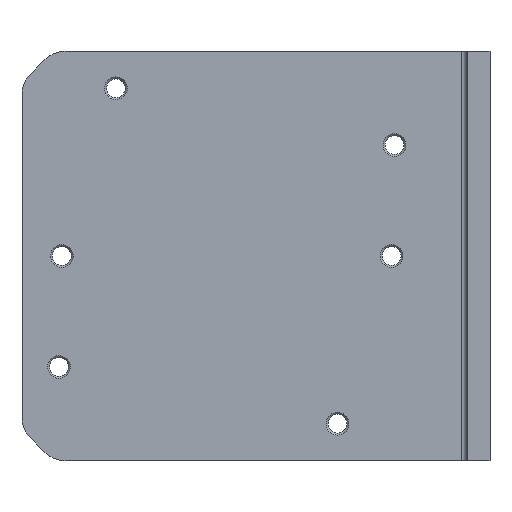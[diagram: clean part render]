
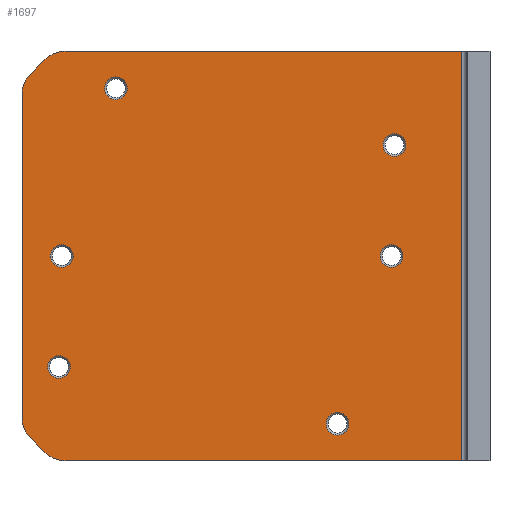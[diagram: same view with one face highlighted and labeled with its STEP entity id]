
A CAD part, front view. The second image highlights one B-rep face of the part: STEP entity #1697.
In plain terms, the highlighted planar face has unit normal (0, -1, 0).
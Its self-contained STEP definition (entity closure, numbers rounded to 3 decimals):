
#271=CARTESIAN_POINT('',(-17.3,-4.,0.));
#272=DIRECTION('',(0.,1.,0.));
#273=DIRECTION('',(1.,0.,0.));
#274=AXIS2_PLACEMENT_3D('',#271,#272,#273);
#279=CARTESIAN_POINT('',(-17.3,-4.,0.));
#280=DIRECTION('',(0.,1.,0.));
#281=DIRECTION('',(-1.,0.,0.));
#282=AXIS2_PLACEMENT_3D('',#279,#280,#281);
#287=CARTESIAN_POINT('',(-75.3,-4.,0.));
#288=DIRECTION('',(0.,1.,0.));
#289=DIRECTION('',(1.,0.,0.));
#290=AXIS2_PLACEMENT_3D('',#287,#288,#289);
#295=CARTESIAN_POINT('',(-75.3,-4.,0.));
#296=DIRECTION('',(0.,1.,0.));
#297=DIRECTION('',(-1.,0.,0.));
#298=AXIS2_PLACEMENT_3D('',#295,#296,#297);
#303=CARTESIAN_POINT('',(-74.729,-4.,-31.));
#304=DIRECTION('',(0.,-1.,0.));
#305=DIRECTION('',(-0.707,0.,-0.707));
#306=AXIS2_PLACEMENT_3D('',#303,#304,#305);
#311=DIRECTION('',(0.707,0.,-0.707));
#312=VECTOR('',#311,3.636);
#313=CARTESIAN_POINT('',(-80.836,-4.,-31.964));
#314=LINE('',#313,#312);
#318=CARTESIAN_POINT('',(-77.3,-4.,-28.429));
#319=DIRECTION('',(0.,-1.,0.));
#320=DIRECTION('',(-1.,0.,0.));
#321=AXIS2_PLACEMENT_3D('',#318,#319,#320);
#326=CARTESIAN_POINT('',(-77.3,-4.,28.429));
#327=DIRECTION('',(0.,-1.,0.));
#328=DIRECTION('',(-0.707,0.,0.707));
#329=AXIS2_PLACEMENT_3D('',#326,#327,#328);
#334=DIRECTION('',(-0.707,0.,-0.707));
#335=VECTOR('',#334,3.636);
#336=CARTESIAN_POINT('',(-78.264,-4.,34.536));
#337=LINE('',#336,#335);
#341=CARTESIAN_POINT('',(-74.729,-4.,31.));
#342=DIRECTION('',(0.,-1.,0.));
#343=DIRECTION('',(0.,0.,1.));
#344=AXIS2_PLACEMENT_3D('',#341,#342,#343);
#349=DIRECTION('',(0.,0.,-1.));
#350=VECTOR('',#349,72.);
#351=CARTESIAN_POINT('',(-5.,-4.,36.));
#352=LINE('',#351,#350);
#356=CARTESIAN_POINT('',(-26.8,-4.,-29.5));
#357=DIRECTION('',(0.,1.,0.));
#358=DIRECTION('',(1.,0.,0.));
#359=AXIS2_PLACEMENT_3D('',#356,#357,#358);
#364=CARTESIAN_POINT('',(-26.8,-4.,-29.5));
#365=DIRECTION('',(0.,1.,0.));
#366=DIRECTION('',(-1.,0.,0.));
#367=AXIS2_PLACEMENT_3D('',#364,#365,#366);
#372=CARTESIAN_POINT('',(-65.8,-4.,29.5));
#373=DIRECTION('',(0.,1.,0.));
#374=DIRECTION('',(1.,0.,0.));
#375=AXIS2_PLACEMENT_3D('',#372,#373,#374);
#380=CARTESIAN_POINT('',(-65.8,-4.,29.5));
#381=DIRECTION('',(0.,1.,0.));
#382=DIRECTION('',(-1.,0.,0.));
#383=AXIS2_PLACEMENT_3D('',#380,#381,#382);
#388=CARTESIAN_POINT('',(-75.8,-4.,-19.5));
#389=DIRECTION('',(0.,1.,0.));
#390=DIRECTION('',(0.,0.,-1.));
#391=AXIS2_PLACEMENT_3D('',#388,#389,#390);
#396=CARTESIAN_POINT('',(-75.8,-4.,-19.5));
#397=DIRECTION('',(0.,1.,0.));
#398=DIRECTION('',(0.,0.,1.));
#399=AXIS2_PLACEMENT_3D('',#396,#397,#398);
#404=CARTESIAN_POINT('',(-16.8,-4.,19.5));
#405=DIRECTION('',(0.,1.,0.));
#406=DIRECTION('',(0.,0.,-1.));
#407=AXIS2_PLACEMENT_3D('',#404,#405,#406);
#412=CARTESIAN_POINT('',(-16.8,-4.,19.5));
#413=DIRECTION('',(0.,1.,0.));
#414=DIRECTION('',(0.,0.,1.));
#415=AXIS2_PLACEMENT_3D('',#412,#413,#414);
#543=DIRECTION('',(0.,0.,-1.));
#544=VECTOR('',#543,56.858);
#545=CARTESIAN_POINT('',(-82.3,-4.,28.429));
#546=LINE('',#545,#544);
#585=DIRECTION('',(-1.,0.,0.));
#586=VECTOR('',#585,69.729);
#587=CARTESIAN_POINT('',(-5.,-4.,36.));
#588=LINE('',#587,#586);
#652=DIRECTION('',(-1.,0.,0.));
#653=VECTOR('',#652,69.729);
#654=CARTESIAN_POINT('',(-5.,-4.,-36.));
#655=LINE('',#654,#653);
#1316=CARTESIAN_POINT('',(-5.,-4.,36.));
#1317=VERTEX_POINT('',#1316);
#1322=CARTESIAN_POINT('',(-5.,-4.,-36.));
#1323=VERTEX_POINT('',#1322);
#1384=CARTESIAN_POINT('',(-15.3,-4.,0.));
#1385=CARTESIAN_POINT('',(-19.3,-4.,0.));
#1386=VERTEX_POINT('',#1384);
#1387=VERTEX_POINT('',#1385);
#1396=CARTESIAN_POINT('',(-73.3,-4.,0.));
#1397=VERTEX_POINT('',#1396);
#1400=CARTESIAN_POINT('',(-77.3,-4.,0.));
#1401=VERTEX_POINT('',#1400);
#1408=CARTESIAN_POINT('',(-78.264,-4.,-34.536));
#1409=VERTEX_POINT('',#1408);
#1410=CARTESIAN_POINT('',(-74.729,-4.,-36.));
#1411=VERTEX_POINT('',#1410);
#1412=CARTESIAN_POINT('',(-82.3,-4.,-28.429));
#1413=CARTESIAN_POINT('',(-80.836,-4.,-31.964));
#1414=VERTEX_POINT('',#1412);
#1415=VERTEX_POINT('',#1413);
#1424=CARTESIAN_POINT('',(-80.836,-4.,31.964));
#1425=VERTEX_POINT('',#1424);
#1426=CARTESIAN_POINT('',(-82.3,-4.,28.429));
#1427=VERTEX_POINT('',#1426);
#1428=CARTESIAN_POINT('',(-74.729,-4.,36.));
#1429=CARTESIAN_POINT('',(-78.264,-4.,34.536));
#1430=VERTEX_POINT('',#1428);
#1431=VERTEX_POINT('',#1429);
#1444=CARTESIAN_POINT('',(-24.8,-4.,-29.5));
#1445=VERTEX_POINT('',#1444);
#1448=CARTESIAN_POINT('',(-28.8,-4.,-29.5));
#1449=VERTEX_POINT('',#1448);
#1460=CARTESIAN_POINT('',(-63.8,-4.,29.5));
#1461=VERTEX_POINT('',#1460);
#1464=CARTESIAN_POINT('',(-67.8,-4.,29.5));
#1465=VERTEX_POINT('',#1464);
#1476=CARTESIAN_POINT('',(-75.8,-4.,-21.5));
#1477=VERTEX_POINT('',#1476);
#1480=CARTESIAN_POINT('',(-75.8,-4.,-17.5));
#1481=VERTEX_POINT('',#1480);
#1492=CARTESIAN_POINT('',(-16.8,-4.,17.5));
#1493=VERTEX_POINT('',#1492);
#1496=CARTESIAN_POINT('',(-16.8,-4.,21.5));
#1497=VERTEX_POINT('',#1496);
#1635=CARTESIAN_POINT('',(-5.,-4.,36.));
#1636=DIRECTION('',(0.,1.,0.));
#1637=DIRECTION('',(-1.,0.,0.));
#1638=AXIS2_PLACEMENT_3D('',#1635,#1636,#1637);
#1639=PLANE('',#1638);
#1641=ORIENTED_EDGE('',*,*,#1640,.F.);
#1643=ORIENTED_EDGE('',*,*,#1642,.F.);
#1645=ORIENTED_EDGE('',*,*,#1644,.F.);
#1647=ORIENTED_EDGE('',*,*,#1646,.F.);
#1649=ORIENTED_EDGE('',*,*,#1648,.F.);
#1651=ORIENTED_EDGE('',*,*,#1650,.F.);
#1653=ORIENTED_EDGE('',*,*,#1652,.F.);
#1655=ORIENTED_EDGE('',*,*,#1654,.F.);
#1657=ORIENTED_EDGE('',*,*,#1656,.T.);
#1659=ORIENTED_EDGE('',*,*,#1658,.T.);
#1660=EDGE_LOOP('',(#1641,#1643,#1645,#1647,#1649,#1651,#1653,#1655,#1657,
#1659));
#1661=FACE_OUTER_BOUND('',#1660,.F.);
#1663=ORIENTED_EDGE('',*,*,#1662,.F.);
#1665=ORIENTED_EDGE('',*,*,#1664,.F.);
#1666=EDGE_LOOP('',(#1663,#1665));
#1667=FACE_BOUND('',#1666,.F.);
#1668=ORIENTED_EDGE('',*,*,#1625,.F.);
#1670=ORIENTED_EDGE('',*,*,#1669,.F.);
#1671=EDGE_LOOP('',(#1668,#1670));
#1672=FACE_BOUND('',#1671,.F.);
#1674=ORIENTED_EDGE('',*,*,#1673,.F.);
#1676=ORIENTED_EDGE('',*,*,#1675,.F.);
#1677=EDGE_LOOP('',(#1674,#1676));
#1678=FACE_BOUND('',#1677,.F.);
#1680=ORIENTED_EDGE('',*,*,#1679,.F.);
#1682=ORIENTED_EDGE('',*,*,#1681,.F.);
#1683=EDGE_LOOP('',(#1680,#1682));
#1684=FACE_BOUND('',#1683,.F.);
#1686=ORIENTED_EDGE('',*,*,#1685,.F.);
#1688=ORIENTED_EDGE('',*,*,#1687,.F.);
#1689=EDGE_LOOP('',(#1686,#1688));
#1690=FACE_BOUND('',#1689,.F.);
#1692=ORIENTED_EDGE('',*,*,#1691,.F.);
#1694=ORIENTED_EDGE('',*,*,#1693,.F.);
#1695=EDGE_LOOP('',(#1692,#1694));
#1696=FACE_BOUND('',#1695,.F.);
#275=CIRCLE('',#274,2.);
#283=CIRCLE('',#282,2.);
#291=CIRCLE('',#290,2.);
#299=CIRCLE('',#298,2.);
#307=CIRCLE('',#306,5.);
#322=CIRCLE('',#321,5.);
#330=CIRCLE('',#329,5.);
#345=CIRCLE('',#344,5.);
#360=CIRCLE('',#359,2.);
#368=CIRCLE('',#367,2.);
#376=CIRCLE('',#375,2.);
#384=CIRCLE('',#383,2.);
#392=CIRCLE('',#391,2.);
#400=CIRCLE('',#399,2.);
#408=CIRCLE('',#407,2.);
#416=CIRCLE('',#415,2.);
#1625=EDGE_CURVE('',#1386,#1387,#275,.T.);
#1640=EDGE_CURVE('',#1409,#1411,#307,.T.);
#1642=EDGE_CURVE('',#1415,#1409,#314,.T.);
#1644=EDGE_CURVE('',#1414,#1415,#322,.T.);
#1646=EDGE_CURVE('',#1427,#1414,#546,.T.);
#1648=EDGE_CURVE('',#1425,#1427,#330,.T.);
#1650=EDGE_CURVE('',#1431,#1425,#337,.T.);
#1652=EDGE_CURVE('',#1430,#1431,#345,.T.);
#1654=EDGE_CURVE('',#1317,#1430,#588,.T.);
#1656=EDGE_CURVE('',#1317,#1323,#352,.T.);
#1658=EDGE_CURVE('',#1323,#1411,#655,.T.);
#1662=EDGE_CURVE('',#1397,#1401,#291,.T.);
#1664=EDGE_CURVE('',#1401,#1397,#299,.T.);
#1669=EDGE_CURVE('',#1387,#1386,#283,.T.);
#1673=EDGE_CURVE('',#1445,#1449,#360,.T.);
#1675=EDGE_CURVE('',#1449,#1445,#368,.T.);
#1679=EDGE_CURVE('',#1461,#1465,#376,.T.);
#1681=EDGE_CURVE('',#1465,#1461,#384,.T.);
#1685=EDGE_CURVE('',#1477,#1481,#392,.T.);
#1687=EDGE_CURVE('',#1481,#1477,#400,.T.);
#1691=EDGE_CURVE('',#1493,#1497,#408,.T.);
#1693=EDGE_CURVE('',#1497,#1493,#416,.T.);
#1697=ADVANCED_FACE('',(#1661,#1667,#1672,#1678,#1684,#1690,#1696),#1639,.F.);
